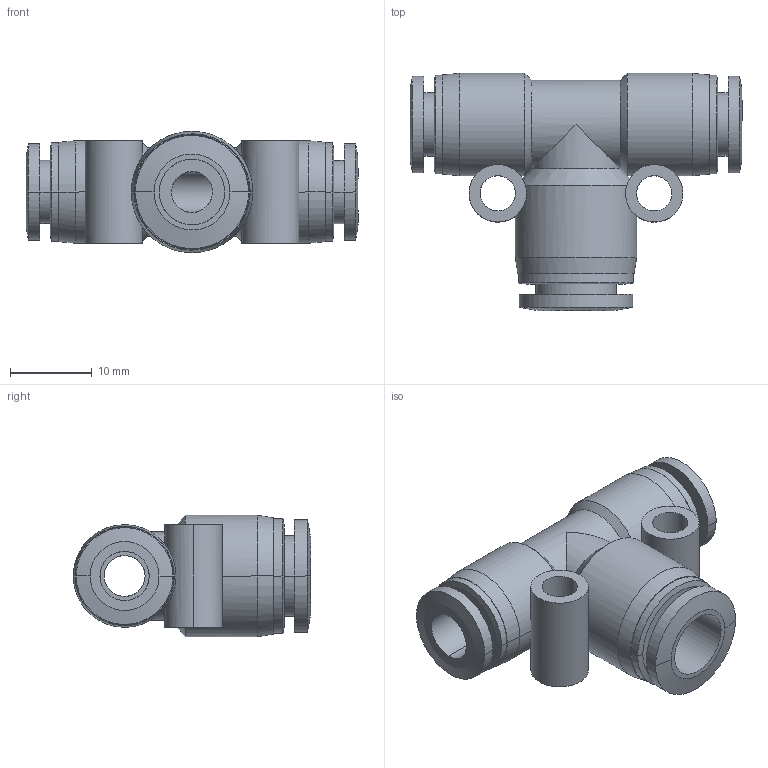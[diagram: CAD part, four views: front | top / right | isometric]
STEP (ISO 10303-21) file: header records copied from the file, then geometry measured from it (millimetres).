
FILE_DESCRIPTION (( 'STEP AP203' ), '1' );
FILE_NAME ('FRT08-06.STEP', '2020-05-12T19:24:30', ( '' ), ( '' ), 'SwSTEP 2.0', 'SolidWorks 2019', '' );
FILE_SCHEMA (( 'CONFIG_CONTROL_DESIGN' ));
Length unit declared in the file: millimetre
Products named in the file (1): FRT08-06
Bounding box: 40.5 x 28.95 x 14.8 mm (x, y, z)
Volume: 5525.4 mm3; surface area: 4831.9 mm2
Topology: 1 solids, 1 shells, 90 faces, 203 edges, 124 vertices
Faces by surface type: cylinder 47, cone 24, plane 19
Entity records: 4992 total; most frequent: CARTESIAN_POINT 3154, ORIENTED_EDGE 406, DIRECTION 255, EDGE_CURVE 203, B_SPLINE_CURVE_WITH_KNOTS 130, VERTEX_POINT 124, EDGE_LOOP 111, AXIS2_PLACEMENT_3D 91
